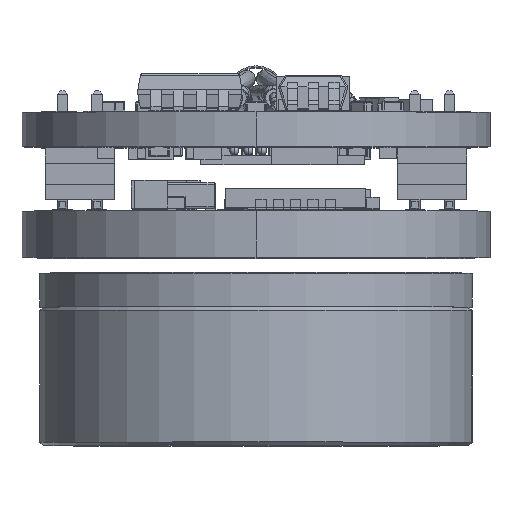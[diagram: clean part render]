
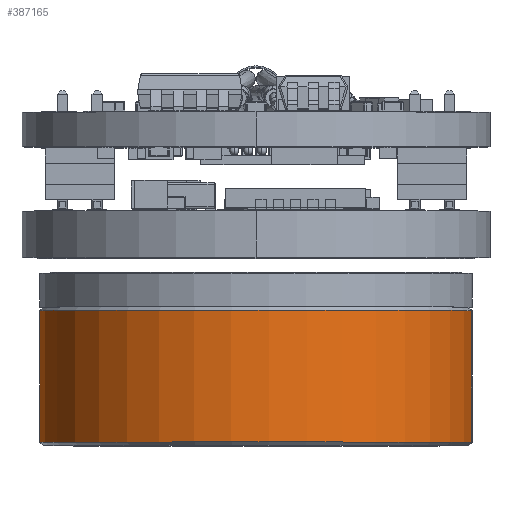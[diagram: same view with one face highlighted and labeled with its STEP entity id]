
A CAD part, top view. The second image highlights one B-rep face of the part: STEP entity #387165.
In plain terms, the highlighted cylindrical face has radius 6.25 mm (diameter 12.5 mm), a partial arc.
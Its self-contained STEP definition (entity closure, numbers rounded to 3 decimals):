
#5877 = VERTEX_POINT ( 'NONE', #294397 ) ;
#15386 = EDGE_LOOP ( 'NONE', ( #215887, #177431, #352589, #276569 ) ) ;
#19662 = EDGE_CURVE ( 'NONE', #237408, #236362, #115409, .T. ) ;
#28389 = DIRECTION ( 'NONE',  ( 1., 0., 0. ) ) ;
#28438 = CARTESIAN_POINT ( 'NONE',  ( 6.25, -3.9, 0. ) ) ;
#36825 = CARTESIAN_POINT ( 'NONE',  ( 6.25, -1182.528, 0. ) ) ;
#54515 = DIRECTION ( 'NONE',  ( 1., 0., 0. ) ) ;
#55087 = CARTESIAN_POINT ( 'NONE',  ( -6.25, -1182.528, 0. ) ) ;
#58676 = CYLINDRICAL_SURFACE ( 'NONE', #171981, 6.25 ) ;
#96303 = DIRECTION ( 'NONE',  ( 0., -1., 0. ) ) ;
#110008 = FACE_OUTER_BOUND ( 'NONE', #15386, .T. ) ;
#115409 = CIRCLE ( 'NONE', #413285, 6.25 ) ;
#125866 = AXIS2_PLACEMENT_3D ( 'NONE', #319239, #96303, #28389 ) ;
#128217 = CARTESIAN_POINT ( 'NONE',  ( 0., -3.9, 0. ) ) ;
#136636 = CARTESIAN_POINT ( 'NONE',  ( -6.25, -3.9, 0. ) ) ;
#152800 = LINE ( 'NONE', #55087, #380917 ) ;
#171981 = AXIS2_PLACEMENT_3D ( 'NONE', #281628, #188336, #54515 ) ;
#177431 = ORIENTED_EDGE ( 'NONE', *, *, #190874, .T. ) ;
#188336 = DIRECTION ( 'NONE',  ( 0., -1., 0. ) ) ;
#190874 = EDGE_CURVE ( 'NONE', #310301, #237408, #152800, .T. ) ;
#193719 = CIRCLE ( 'NONE', #125866, 6.25 ) ;
#205428 = EDGE_CURVE ( 'NONE', #5877, #310301, #193719, .T. ) ;
#215887 = ORIENTED_EDGE ( 'NONE', *, *, #205428, .T. ) ;
#229197 = VECTOR ( 'NONE', #395431, 1000. ) ;
#236362 = VERTEX_POINT ( 'NONE', #28438 ) ;
#237408 = VERTEX_POINT ( 'NONE', #136636 ) ;
#253128 = EDGE_CURVE ( 'NONE', #5877, #236362, #266042, .T. ) ;
#257598 = DIRECTION ( 'NONE',  ( 0., 1., 0. ) ) ;
#265391 = CARTESIAN_POINT ( 'NONE',  ( -6.25, -0.1, 0. ) ) ;
#266042 = LINE ( 'NONE', #36825, #229197 ) ;
#276569 = ORIENTED_EDGE ( 'NONE', *, *, #253128, .F. ) ;
#281628 = CARTESIAN_POINT ( 'NONE',  ( 0., -1182.528, 0. ) ) ;
#294397 = CARTESIAN_POINT ( 'NONE',  ( 6.25, -0.1, 0. ) ) ;
#310301 = VERTEX_POINT ( 'NONE', #265391 ) ;
#319239 = CARTESIAN_POINT ( 'NONE',  ( 0., -0.1, 0. ) ) ;
#347995 = DIRECTION ( 'NONE',  ( 0., -1., 0. ) ) ;
#352589 = ORIENTED_EDGE ( 'NONE', *, *, #19662, .T. ) ;
#380917 = VECTOR ( 'NONE', #347995, 1000. ) ;
#386993 = DIRECTION ( 'NONE',  ( -1., 0., 0. ) ) ;
#387165 = ADVANCED_FACE ( 'NONE', ( #110008 ), #58676, .T. ) ;
#395431 = DIRECTION ( 'NONE',  ( 0., -1., 0. ) ) ;
#413285 = AXIS2_PLACEMENT_3D ( 'NONE', #128217, #257598, #386993 ) ;
